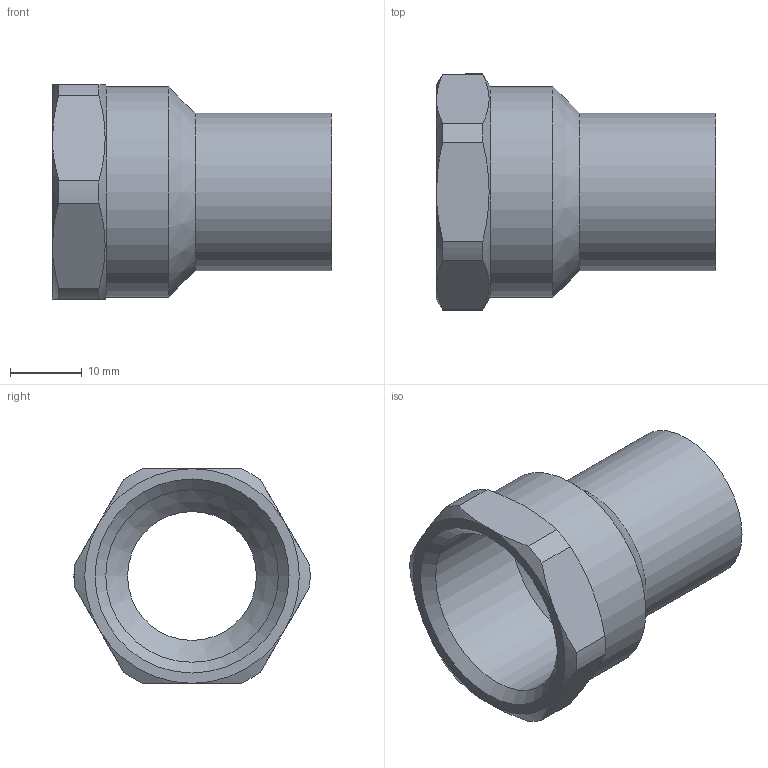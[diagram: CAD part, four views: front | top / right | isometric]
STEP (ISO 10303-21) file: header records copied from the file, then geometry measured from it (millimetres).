
FILE_DESCRIPTION((''),'2;1');
FILE_NAME('C:\Documents and Settings\pajchrowski\Desktop\STEP\14246_22-34(5).stp','2009-02-02T15:51:01',('pajchrowski'),(''),'Autodesk Inventor 2009','Autodesk Inventor 2009','');
FILE_SCHEMA(('AUTOMOTIVE_DESIGN { 1 0 10303 214 1 1 1 1 }'));
Length unit declared in the file: millimetre
Products named in the file (1): 14246_22-34(5)
Bounding box: 39 x 32.99 x 30 mm (x, y, z)
Volume: 7259.2 mm3; surface area: 6341.1 mm2
Topology: 1 solids, 1 shells, 28 faces, 66 edges, 40 vertices
Faces by surface type: cone 10, cylinder 10, plane 8
Full cylindrical faces by diameter (mm): 18 x1, 22 x1, 24.117 x1, 29.5 x1
Entity records: 764 total; most frequent: CARTESIAN_POINT 161, DIRECTION 124, ORIENTED_EDGE 114, EDGE_CURVE 57, AXIS2_PLACEMENT_3D 56, VERTEX_POINT 39, EDGE_LOOP 38, FACE_OUTER_BOUND 28
